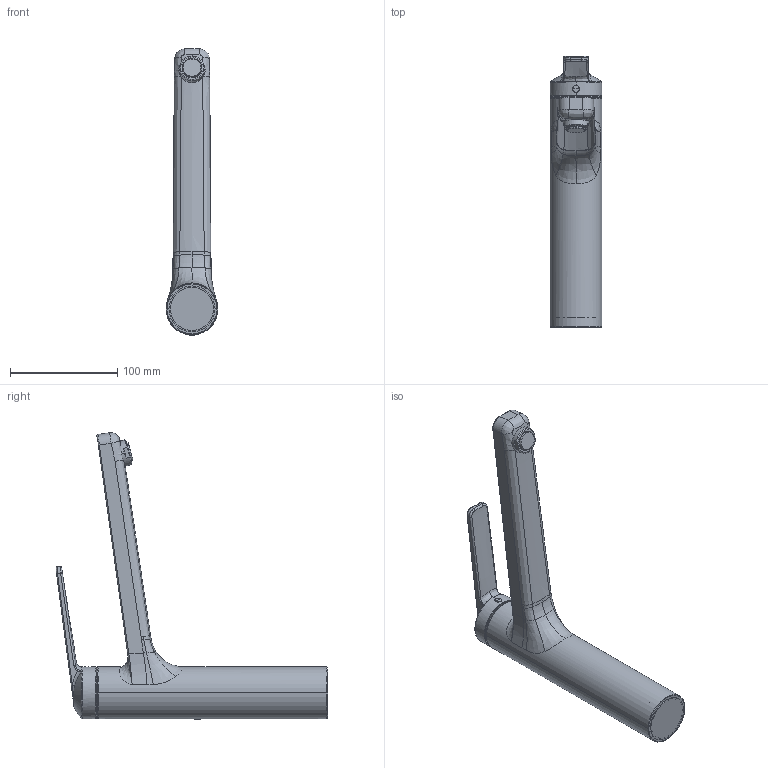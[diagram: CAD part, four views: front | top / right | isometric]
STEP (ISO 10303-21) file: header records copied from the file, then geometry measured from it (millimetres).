
FILE_DESCRIPTION((''),'2;1');
FILE_NAME('509457_SW0001','2019-10-21T11:23:17',('LF994'),(''),'CREO PARAMETRIC BY PTC INC, 2018500','CREO PARAMETRIC BY PTC INC, 2018500','');
FILE_SCHEMA(('CONFIG_CONTROL_DESIGN'));
Products named in the file (1): 509457_SW0001
Bounding box: 48.5 x 253.64 x 267.54 mm (x, y, z)
Volume: 214927.4 mm3; surface area: 150945.6 mm2
Topology: 2 solids, 2 shells, 4232 faces, 10814 edges, 7002 vertices
Faces by surface type: plane 2844, cone 608, bspline 406, cylinder 201, torus 140, sphere 31, revolution 2
Entity records: 174214 total; most frequent: CARTESIAN_POINT 84779, ORIENTED_EDGE 21618, DIRECTION 13289, EDGE_CURVE 10809, VERTEX_POINT 7002, B_SPLINE_CURVE_WITH_KNOTS 6244, AXIS2_PLACEMENT_3D 4896, EDGE_LOOP 4659
